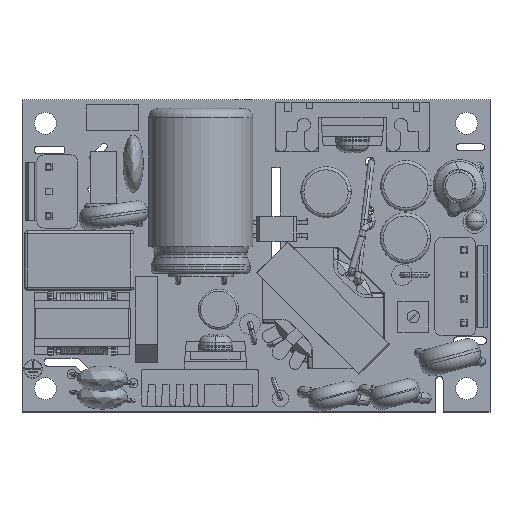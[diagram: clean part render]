
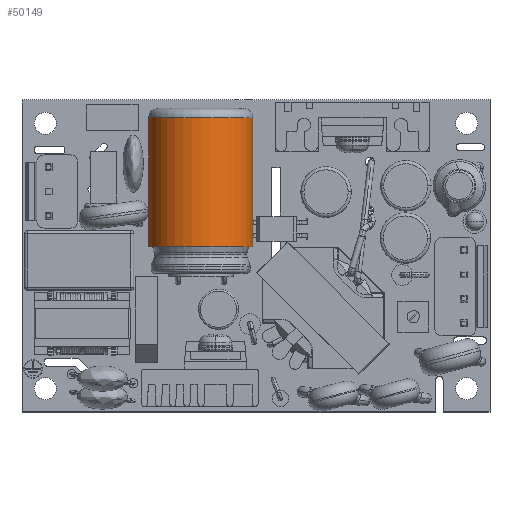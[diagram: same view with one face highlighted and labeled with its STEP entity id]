
A CAD part, top view. The second image highlights one B-rep face of the part: STEP entity #50149.
In plain terms, the highlighted cylindrical face has radius 8.5 mm (diameter 17 mm), a partial arc.
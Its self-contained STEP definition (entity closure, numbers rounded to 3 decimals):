
#16899 = CARTESIAN_POINT ( 'NONE',  ( 8.5, 0., -25.3 ) ) ;
#16905 = DIRECTION ( 'NONE',  ( 1., 0., 0. ) ) ;
#16906 = DIRECTION ( 'NONE',  ( 0., 0., 1. ) ) ;
#16907 = CARTESIAN_POINT ( 'NONE',  ( 0., 0., -25.3 ) ) ;
#16908 = AXIS2_PLACEMENT_3D ( 'NONE', #16907, #16906, #16905 ) ;
#16909 = CIRCLE ( 'NONE', #16908, 8.5 ) ;
#16911 = CARTESIAN_POINT ( 'NONE',  ( -8.5, 0., -25.3 ) ) ;
#16956 = DIRECTION ( 'NONE',  ( 1., 0., 0. ) ) ;
#16957 = DIRECTION ( 'NONE',  ( 0., 0., 1. ) ) ;
#16958 = AXIS2_PLACEMENT_3D ( 'NONE', #16961, #16957, #16956 ) ;
#16959 = CYLINDRICAL_SURFACE ( 'NONE', #16958, 8.5 ) ;
#16961 = CARTESIAN_POINT ( 'NONE',  ( 0., 0., 0. ) ) ;
#16979 = FACE_OUTER_BOUND ( 'NONE', #50150, .T. ) ;
#17014 = CARTESIAN_POINT ( 'NONE',  ( -8.5, 0., -4.3 ) ) ;
#17015 = DIRECTION ( 'NONE',  ( 0., 0., 1. ) ) ;
#17016 = VECTOR ( 'NONE', #17015, 1000. ) ;
#17017 = CARTESIAN_POINT ( 'NONE',  ( -8.5, 0., 0. ) ) ;
#17018 = LINE ( 'NONE', #17017, #17016 ) ;
#17041 = CARTESIAN_POINT ( 'NONE',  ( 0., 0., -4.3 ) ) ;
#17084 = DIRECTION ( 'NONE',  ( 0., 0., 1. ) ) ;
#17085 = VECTOR ( 'NONE', #17084, 1000. ) ;
#17086 = CARTESIAN_POINT ( 'NONE',  ( 8.5, 0., 0. ) ) ;
#17087 = LINE ( 'NONE', #17086, #17085 ) ;
#17089 = CARTESIAN_POINT ( 'NONE',  ( 8.5, 0., -4.3 ) ) ;
#17094 = DIRECTION ( 'NONE',  ( 1., 0., 0. ) ) ;
#17095 = DIRECTION ( 'NONE',  ( 0., 0., 1. ) ) ;
#17096 = AXIS2_PLACEMENT_3D ( 'NONE', #17041, #17095, #17094 ) ;
#17097 = CIRCLE ( 'NONE', #17096, 8.5 ) ;
#50123 = VERTEX_POINT ( 'NONE', #16911 ) ;
#50130 = EDGE_CURVE ( 'NONE', #50134, #50123, #16909, .T. ) ;
#50134 = VERTEX_POINT ( 'NONE', #16899 ) ;
#50149 = ADVANCED_FACE ( 'NONE', ( #16979 ), #16959, .T. ) ;
#50150 = EDGE_LOOP ( 'NONE', ( #50153, #50157, #50178, #50197 ) ) ;
#50153 = ORIENTED_EDGE ( 'NONE', *, *, #50130, .T. ) ;
#50157 = ORIENTED_EDGE ( 'NONE', *, *, #50171, .T. ) ;
#50171 = EDGE_CURVE ( 'NONE', #50123, #50172, #17018, .T. ) ;
#50172 = VERTEX_POINT ( 'NONE', #17014 ) ;
#50178 = ORIENTED_EDGE ( 'NONE', *, *, #50185, .F. ) ;
#50185 = EDGE_CURVE ( 'NONE', #50191, #50172, #17097, .T. ) ;
#50191 = VERTEX_POINT ( 'NONE', #17089 ) ;
#50197 = ORIENTED_EDGE ( 'NONE', *, *, #50198, .F. ) ;
#50198 = EDGE_CURVE ( 'NONE', #50134, #50191, #17087, .T. ) ;
